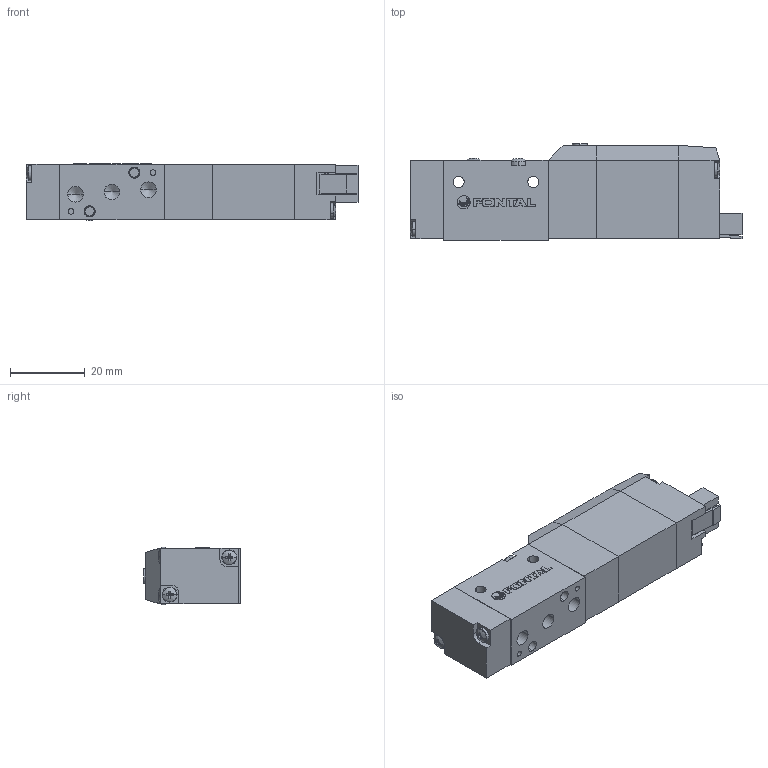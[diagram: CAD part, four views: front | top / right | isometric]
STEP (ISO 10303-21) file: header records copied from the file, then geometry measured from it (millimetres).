
FILE_DESCRIPTION (( 'STEP AP203' ), '1' );
FILE_NAME ('RCS245#-M5-#-SP-#.STEP', '2016-02-04T05:23:23', ( 'Sam Lin' ), ( '' ), 'SwSTEP 2.0', 'SolidWorks 2013', '' );
FILE_SCHEMA (( 'CONFIG_CONTROL_DESIGN' ));
Length unit declared in the file: metre
Products named in the file (11): PC5-5; PC5-6; PC5-7; PC5-8; RCS-1; PC5-10; PC-MARK; RCS245#-M5-#-SP-#; PC5-2; ISO 7045 - M2 x 10; ISO 7045 - M2.5 x 25
Assembly tree (14 placements, depth 2):
  RCS245#-M5-#-SP-#
    RCS-1
    PC-MARK
    PC5-2
    ISO 7045 - M2 x 10  x4
    ISO 7045 - M2.5 x 25  x2
    PC5-5
    PC5-6
    PC5-7
    PC5-8
    PC5-10
Bounding box: 89.07 x 26 x 15.4 mm (x, y, z)
Volume: 27612.8 mm3; surface area: 13189.4 mm2
Topology: 21 solids, 21 shells, 518 faces, 1281 edges, 798 vertices
Faces by surface type: plane 309, cylinder 93, cone 72, bspline 44
Entity records: 11900 total; most frequent: CARTESIAN_POINT 2362, ORIENTED_EDGE 1722, DIRECTION 1677, EDGE_CURVE 861, LINE 571, VECTOR 571, VERTEX_POINT 558, AXIS2_PLACEMENT_3D 553
